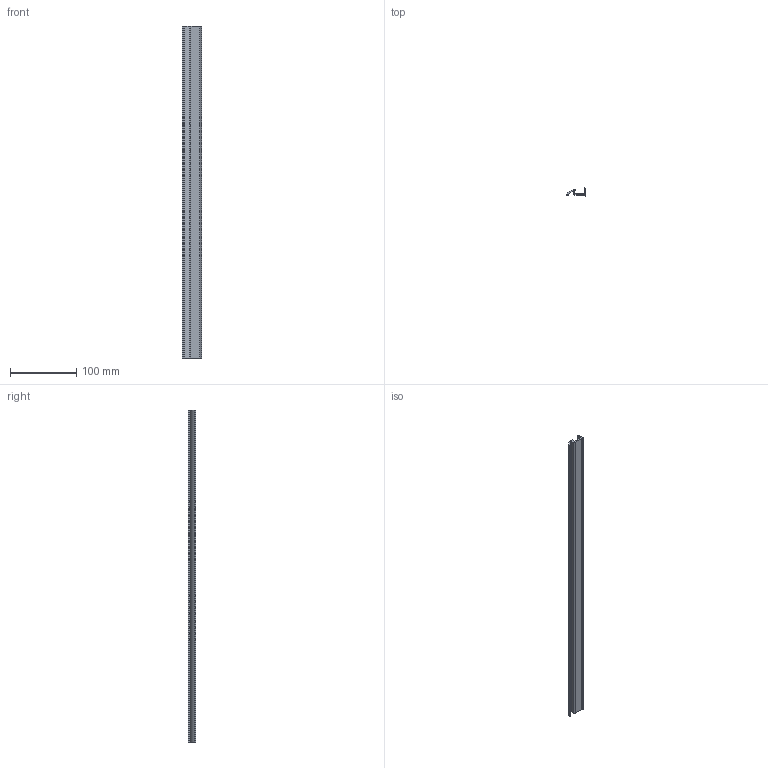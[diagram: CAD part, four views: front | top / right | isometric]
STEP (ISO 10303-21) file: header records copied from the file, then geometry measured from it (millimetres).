
FILE_DESCRIPTION (( 'STEP AP214' ), '1' );
FILE_NAME ('A40712.step', '2024-12-03T16:11:54', ( '' ), ( '' ), 'SwSTEP 2.0', 'SolidWorks 2023', '' );
FILE_SCHEMA (( 'AUTOMOTIVE_DESIGN' ));
Length unit declared in the file: millimetre
Products named in the file (1): A40712
Bounding box: 28.8 x 11.49 x 500 mm (x, y, z)
Volume: 45090.8 mm3; surface area: 48317.8 mm2
Topology: 1 solids, 1 shells, 26 faces, 72 edges, 48 vertices
Faces by surface type: plane 13, cylinder 13
Entity records: 865 total; most frequent: DIRECTION 152, CARTESIAN_POINT 147, ORIENTED_EDGE 144, EDGE_CURVE 72, AXIS2_PLACEMENT_3D 53, VERTEX_POINT 48, VECTOR 46, LINE 46
